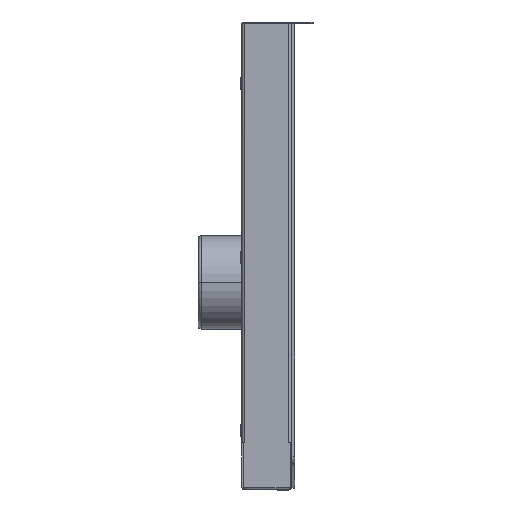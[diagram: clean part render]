
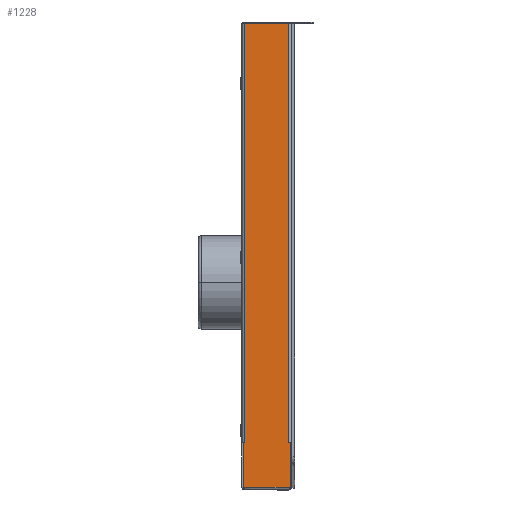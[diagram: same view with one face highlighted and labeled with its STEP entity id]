
A CAD part, left-side view. The second image highlights one B-rep face of the part: STEP entity #1228.
In plain terms, the highlighted planar face has unit normal (-1, 0, 0).
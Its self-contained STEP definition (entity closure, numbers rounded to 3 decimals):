
#1228 = ADVANCED_FACE ( 'NONE', ( #116152 ), #57286, .T. ) ;
#2955 = CARTESIAN_POINT ( 'NONE',  ( -297.5, 23.329, -496. ) ) ;
#3122 = EDGE_CURVE ( 'NONE', #91906, #41970, #5875, .T. ) ;
#5558 = ORIENTED_EDGE ( 'NONE', *, *, #22598, .T. ) ;
#5875 = LINE ( 'NONE', #49709, #85953 ) ;
#7004 = EDGE_CURVE ( 'NONE', #91906, #39167, #117294, .T. ) ;
#7862 = VERTEX_POINT ( 'NONE', #20656 ) ;
#9337 = EDGE_CURVE ( 'NONE', #77935, #119715, #90082, .T. ) ;
#10076 = VECTOR ( 'NONE', #73550, 1000. ) ;
#12014 = VERTEX_POINT ( 'NONE', #68087 ) ;
#13311 = EDGE_CURVE ( 'NONE', #12014, #119715, #43962, .T. ) ;
#17300 = VECTOR ( 'NONE', #107980, 1000. ) ;
#17422 = CARTESIAN_POINT ( 'NONE',  ( -297.5, 0., 0. ) ) ;
#20656 = CARTESIAN_POINT ( 'NONE',  ( -297.5, 24.929, -50.5 ) ) ;
#22598 = EDGE_CURVE ( 'NONE', #39167, #7862, #121836, .T. ) ;
#30324 = VECTOR ( 'NONE', #79229, 1000. ) ;
#31405 = CARTESIAN_POINT ( 'NONE',  ( -297.5, -24.929, -3.1 ) ) ;
#31411 = EDGE_CURVE ( 'NONE', #7862, #12014, #127876, .T. ) ;
#34078 = ORIENTED_EDGE ( 'NONE', *, *, #31411, .T. ) ;
#35663 = DIRECTION ( 'NONE',  ( 0., -1., 0. ) ) ;
#37588 = DIRECTION ( 'NONE',  ( -1., 0., 0. ) ) ;
#39167 = VERTEX_POINT ( 'NONE', #114213 ) ;
#39701 = CARTESIAN_POINT ( 'NONE',  ( -297.5, -24.929, -50.5 ) ) ;
#40037 = EDGE_CURVE ( 'NONE', #106757, #41970, #101742, .T. ) ;
#40323 = CARTESIAN_POINT ( 'NONE',  ( -297.5, -23.329, -50.5 ) ) ;
#41510 = CARTESIAN_POINT ( 'NONE',  ( -297.5, 0., -3.1 ) ) ;
#41970 = VERTEX_POINT ( 'NONE', #39701 ) ;
#43962 = LINE ( 'NONE', #77338, #17300 ) ;
#44885 = VECTOR ( 'NONE', #67207, 1000. ) ;
#45092 = EDGE_CURVE ( 'NONE', #77935, #106757, #53810, .T. ) ;
#49709 = CARTESIAN_POINT ( 'NONE',  ( -297.5, -24.929, -3.1 ) ) ;
#50247 = CARTESIAN_POINT ( 'NONE',  ( -297.5, -23.329, -496. ) ) ;
#53810 = LINE ( 'NONE', #50247, #30324 ) ;
#54910 = CARTESIAN_POINT ( 'NONE',  ( -297.5, 0., -50.5 ) ) ;
#57286 = PLANE ( 'NONE',  #64604 ) ;
#57426 = DIRECTION ( 'NONE',  ( 0., -1., 0. ) ) ;
#60020 = ORIENTED_EDGE ( 'NONE', *, *, #45092, .T. ) ;
#62145 = CARTESIAN_POINT ( 'NONE',  ( -297.5, 23.4, -496. ) ) ;
#63729 = ORIENTED_EDGE ( 'NONE', *, *, #3122, .F. ) ;
#64604 = AXIS2_PLACEMENT_3D ( 'NONE', #17422, #37588, #107742 ) ;
#67105 = VECTOR ( 'NONE', #71392, 1000. ) ;
#67207 = DIRECTION ( 'NONE',  ( 0., 0., -1. ) ) ;
#68087 = CARTESIAN_POINT ( 'NONE',  ( -297.5, 23.329, -50.5 ) ) ;
#71392 = DIRECTION ( 'NONE',  ( 0., 1., 0. ) ) ;
#73550 = DIRECTION ( 'NONE',  ( 0., 1., 0. ) ) ;
#74940 = ORIENTED_EDGE ( 'NONE', *, *, #9337, .F. ) ;
#77338 = CARTESIAN_POINT ( 'NONE',  ( -297.5, 23.329, -50.5 ) ) ;
#77648 = CARTESIAN_POINT ( 'NONE',  ( -297.5, 0., -50.5 ) ) ;
#77935 = VERTEX_POINT ( 'NONE', #84002 ) ;
#78225 = VECTOR ( 'NONE', #57426, 1000. ) ;
#79229 = DIRECTION ( 'NONE',  ( 0., 0., 1. ) ) ;
#84002 = CARTESIAN_POINT ( 'NONE',  ( -297.5, -23.329, -496. ) ) ;
#85953 = VECTOR ( 'NONE', #119926, 1000. ) ;
#87027 = VECTOR ( 'NONE', #35663, 1000. ) ;
#90082 = LINE ( 'NONE', #62145, #10076 ) ;
#91906 = VERTEX_POINT ( 'NONE', #31405 ) ;
#96810 = ORIENTED_EDGE ( 'NONE', *, *, #13311, .T. ) ;
#97446 = ORIENTED_EDGE ( 'NONE', *, *, #40037, .T. ) ;
#101742 = LINE ( 'NONE', #77648, #78225 ) ;
#106757 = VERTEX_POINT ( 'NONE', #40323 ) ;
#107742 = DIRECTION ( 'NONE',  ( 0., 0., 1. ) ) ;
#107980 = DIRECTION ( 'NONE',  ( 0., 0., -1. ) ) ;
#114153 = ORIENTED_EDGE ( 'NONE', *, *, #7004, .T. ) ;
#114213 = CARTESIAN_POINT ( 'NONE',  ( -297.5, 24.929, -3.1 ) ) ;
#116152 = FACE_OUTER_BOUND ( 'NONE', #119581, .T. ) ;
#117294 = LINE ( 'NONE', #41510, #67105 ) ;
#119581 = EDGE_LOOP ( 'NONE', ( #74940, #60020, #97446, #63729, #114153, #5558, #34078, #96810 ) ) ;
#119715 = VERTEX_POINT ( 'NONE', #2955 ) ;
#119926 = DIRECTION ( 'NONE',  ( 0., 0., -1. ) ) ;
#121836 = LINE ( 'NONE', #127342, #44885 ) ;
#127342 = CARTESIAN_POINT ( 'NONE',  ( -297.5, 24.929, -3.1 ) ) ;
#127876 = LINE ( 'NONE', #54910, #87027 ) ;
